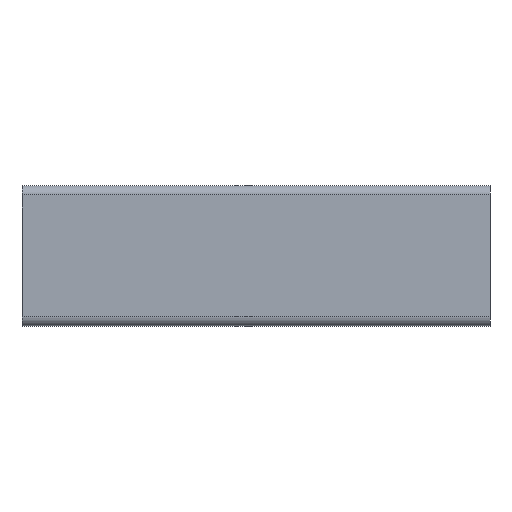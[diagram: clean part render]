
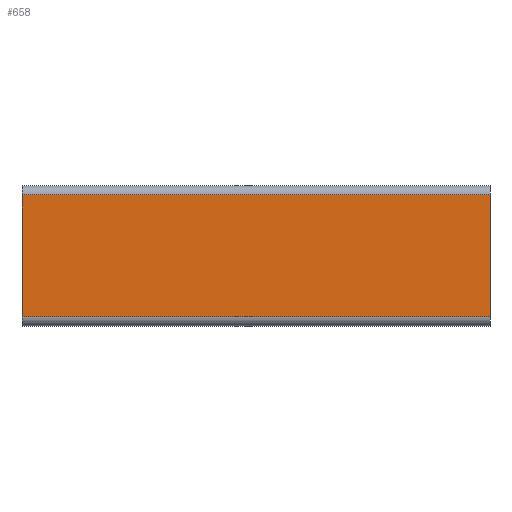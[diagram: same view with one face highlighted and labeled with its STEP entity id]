
A CAD part, top view. The second image highlights one B-rep face of the part: STEP entity #658.
In plain terms, the highlighted planar face has unit normal (0, 0, 1).
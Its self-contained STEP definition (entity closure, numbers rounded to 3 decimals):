
#66 = ORIENTED_EDGE ( 'NONE', *, *, #378, .F. ) ;
#73 = CARTESIAN_POINT ( 'NONE',  ( 0., 28., 30. ) ) ;
#95 = CARTESIAN_POINT ( 'NONE',  ( 100., 2., 30. ) ) ;
#106 = VERTEX_POINT ( 'NONE', #752 ) ;
#156 = VECTOR ( 'NONE', #738, 1000. ) ;
#178 = LINE ( 'NONE', #95, #156 ) ;
#225 = AXIS2_PLACEMENT_3D ( 'NONE', #824, #598, #476 ) ;
#230 = VERTEX_POINT ( 'NONE', #470 ) ;
#257 = CARTESIAN_POINT ( 'NONE',  ( 0., 2., 30. ) ) ;
#376 = ORIENTED_EDGE ( 'NONE', *, *, #1060, .T. ) ;
#378 = EDGE_CURVE ( 'NONE', #106, #230, #1143, .T. ) ;
#381 = EDGE_CURVE ( 'NONE', #230, #1074, #178, .T. ) ;
#470 = CARTESIAN_POINT ( 'NONE',  ( 100., 2., 30. ) ) ;
#476 = DIRECTION ( 'NONE',  ( -1., 0., 0. ) ) ;
#540 = CARTESIAN_POINT ( 'NONE',  ( 100., 28., 30. ) ) ;
#598 = DIRECTION ( 'NONE',  ( 0., 0., -1. ) ) ;
#633 = FACE_OUTER_BOUND ( 'NONE', #950, .T. ) ;
#645 = VECTOR ( 'NONE', #989, 1000. ) ;
#658 = ADVANCED_FACE ( 'NONE', ( #633 ), #815, .F. ) ;
#721 = ORIENTED_EDGE ( 'NONE', *, *, #381, .F. ) ;
#730 = DIRECTION ( 'NONE',  ( -1., 0., 0. ) ) ;
#738 = DIRECTION ( 'NONE',  ( -1., 0., 0. ) ) ;
#752 = CARTESIAN_POINT ( 'NONE',  ( 100., 28., 30. ) ) ;
#808 = ORIENTED_EDGE ( 'NONE', *, *, #979, .T. ) ;
#815 = PLANE ( 'NONE',  #225 ) ;
#824 = CARTESIAN_POINT ( 'NONE',  ( 100., 2., 30. ) ) ;
#855 = VECTOR ( 'NONE', #730, 1000. ) ;
#923 = VERTEX_POINT ( 'NONE', #73 ) ;
#950 = EDGE_LOOP ( 'NONE', ( #808, #721, #66, #376 ) ) ;
#979 = EDGE_CURVE ( 'NONE', #923, #1074, #1124, .T. ) ;
#989 = DIRECTION ( 'NONE',  ( 0., -1., 0. ) ) ;
#1026 = LINE ( 'NONE', #540, #855 ) ;
#1060 = EDGE_CURVE ( 'NONE', #106, #923, #1026, .T. ) ;
#1074 = VERTEX_POINT ( 'NONE', #1178 ) ;
#1097 = VECTOR ( 'NONE', #1173, 1000. ) ;
#1124 = LINE ( 'NONE', #257, #1097 ) ;
#1143 = LINE ( 'NONE', #1175, #645 ) ;
#1173 = DIRECTION ( 'NONE',  ( 0., -1., 0. ) ) ;
#1175 = CARTESIAN_POINT ( 'NONE',  ( 100., 2., 30. ) ) ;
#1178 = CARTESIAN_POINT ( 'NONE',  ( 0., 2., 30. ) ) ;
